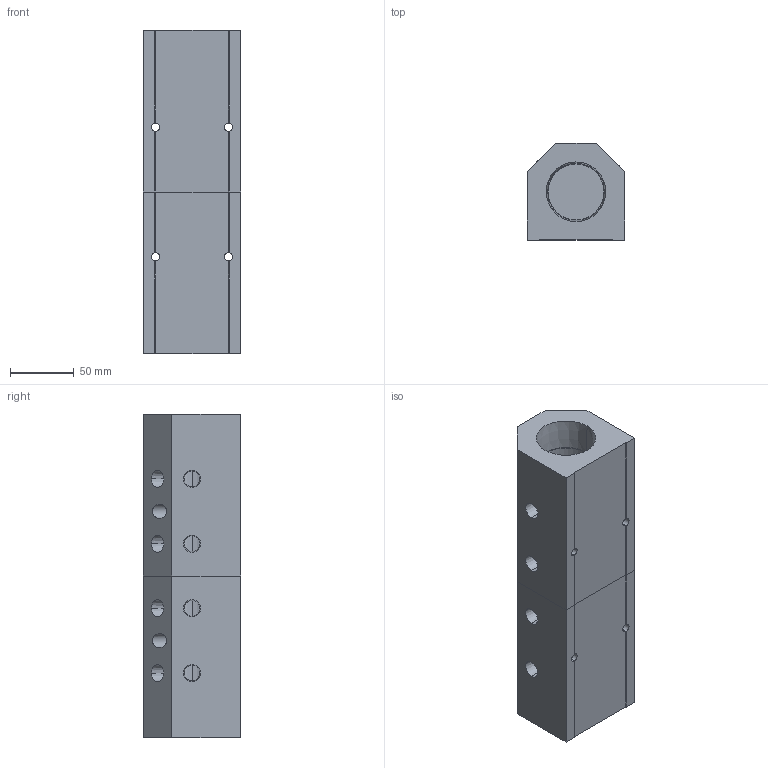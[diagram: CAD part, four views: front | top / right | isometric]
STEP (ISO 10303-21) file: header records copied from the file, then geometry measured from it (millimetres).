
FILE_DESCRIPTION (( 'STEP AP214' ), '1' );
FILE_NAME ('ALM4AB-N4N24-254RB.step', '2022-02-07T07:52:00', ( '' ), ( '' ), 'SwSTEP 2.0', 'SolidWorks 2020', '' );
FILE_SCHEMA (( 'AUTOMOTIVE_DESIGN' ));
Length unit declared in the file: millimetre
Products named in the file (1): ALM4AB-N4N24-254RB
Bounding box: 76.2 x 76.2 x 254 mm (x, y, z)
Volume: 925204.9 mm3; surface area: 135645 mm2
Topology: 2 solids, 2 shells, 361 faces, 950 edges, 628 vertices
Faces by surface type: plane 272, bspline 49, cone 20, cylinder 20
Entity records: 18337 total; most frequent: CARTESIAN_POINT 6333, ORIENTED_EDGE 1900, DIRECTION 1502, EDGE_CURVE 950, LINE 764, VECTOR 764, VERTEX_POINT 628, EDGE_LOOP 420
